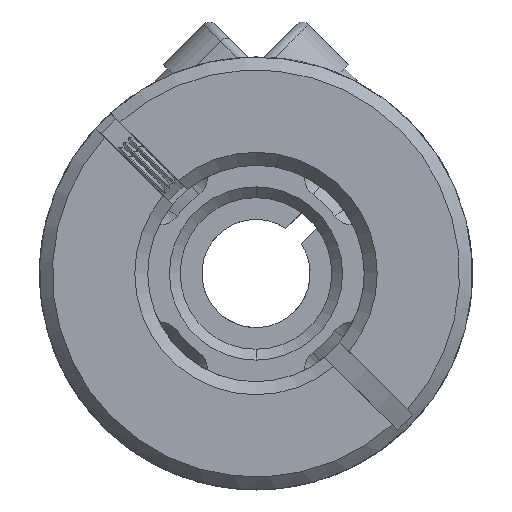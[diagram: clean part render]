
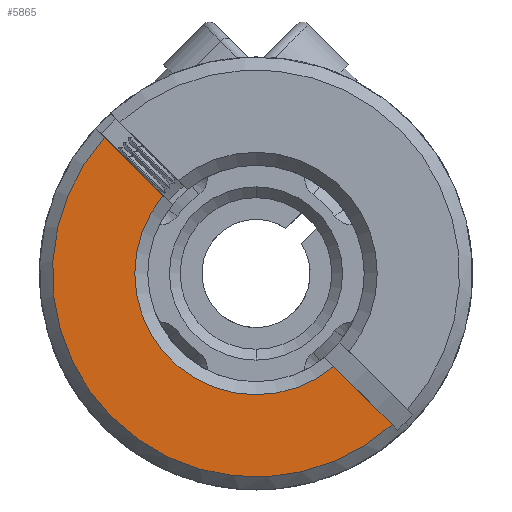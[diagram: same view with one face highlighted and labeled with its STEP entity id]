
A CAD part, front view. The second image highlights one B-rep face of the part: STEP entity #5865.
In plain terms, the highlighted planar face has unit normal (0, -1, 0).
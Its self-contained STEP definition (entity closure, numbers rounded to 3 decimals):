
#1170 = CARTESIAN_POINT ( 'NONE',  ( 0., -11.2, 0. ) ) ;
#1262 = DIRECTION ( 'NONE',  ( 0., 1., 0. ) ) ;
#1489 = DIRECTION ( 'NONE',  ( 0., -1., 0. ) ) ;
#1734 = CARTESIAN_POINT ( 'NONE',  ( -4.298, -11.2, 3.59 ) ) ;
#2179 = ORIENTED_EDGE ( 'NONE', *, *, #8971, .T. ) ;
#2703 = DIRECTION ( 'NONE',  ( -0.707, 0., 0.707 ) ) ;
#3585 = EDGE_CURVE ( 'NONE', #12422, #12869, #5823, .T. ) ;
#4194 = EDGE_CURVE ( 'NONE', #12869, #14119, #11787, .T. ) ;
#5047 = CARTESIAN_POINT ( 'NONE',  ( 0.205, -11.2, -0.912 ) ) ;
#5823 = LINE ( 'NONE', #6376, #9455 ) ;
#5865 = ADVANCED_FACE ( 'NONE', ( #7555 ), #12020, .T. ) ;
#6122 = CARTESIAN_POINT ( 'NONE',  ( 0., -11.2, 0. ) ) ;
#6154 = CARTESIAN_POINT ( 'NONE',  ( 3.59, -11.2, -4.298 ) ) ;
#6376 = CARTESIAN_POINT ( 'NONE',  ( -8.839, -11.2, 8.132 ) ) ;
#6408 = EDGE_LOOP ( 'NONE', ( #10950, #2179, #9322, #12019 ) ) ;
#6929 = AXIS2_PLACEMENT_3D ( 'NONE', #8405, #7291, #2703 ) ;
#7091 = VERTEX_POINT ( 'NONE', #9154 ) ;
#7291 = DIRECTION ( 'NONE',  ( 0., -1., 0. ) ) ;
#7439 = EDGE_CURVE ( 'NONE', #14119, #7091, #10236, .T. ) ;
#7555 = FACE_OUTER_BOUND ( 'NONE', #6408, .T. ) ;
#8155 = DIRECTION ( 'NONE',  ( -0.707, 0., 0.707 ) ) ;
#8405 = CARTESIAN_POINT ( 'NONE',  ( 45.083, -11.2, 25.627 ) ) ;
#8757 = CARTESIAN_POINT ( 'NONE',  ( 6.284, -11.2, -6.991 ) ) ;
#8971 = EDGE_CURVE ( 'NONE', #7091, #12422, #11299, .T. ) ;
#9006 = AXIS2_PLACEMENT_3D ( 'NONE', #6122, #1489, #11910 ) ;
#9154 = CARTESIAN_POINT ( 'NONE',  ( -6.991, -11.2, 6.284 ) ) ;
#9322 = ORIENTED_EDGE ( 'NONE', *, *, #3585, .T. ) ;
#9455 = VECTOR ( 'NONE', #12260, 1000. ) ;
#10236 = LINE ( 'NONE', #5047, #14069 ) ;
#10950 = ORIENTED_EDGE ( 'NONE', *, *, #7439, .T. ) ;
#11299 = CIRCLE ( 'NONE', #9006, 9.4 ) ;
#11787 = CIRCLE ( 'NONE', #13922, 5.6 ) ;
#11910 = DIRECTION ( 'NONE',  ( -0.707, 0., 0.707 ) ) ;
#12019 = ORIENTED_EDGE ( 'NONE', *, *, #4194, .T. ) ;
#12020 = PLANE ( 'NONE',  #6929 ) ;
#12260 = DIRECTION ( 'NONE',  ( -0.707, 0., 0.707 ) ) ;
#12422 = VERTEX_POINT ( 'NONE', #8757 ) ;
#12869 = VERTEX_POINT ( 'NONE', #6154 ) ;
#13226 = DIRECTION ( 'NONE',  ( -0.707, 0., 0.707 ) ) ;
#13922 = AXIS2_PLACEMENT_3D ( 'NONE', #1170, #1262, #8155 ) ;
#14069 = VECTOR ( 'NONE', #13226, 1000. ) ;
#14119 = VERTEX_POINT ( 'NONE', #1734 ) ;
